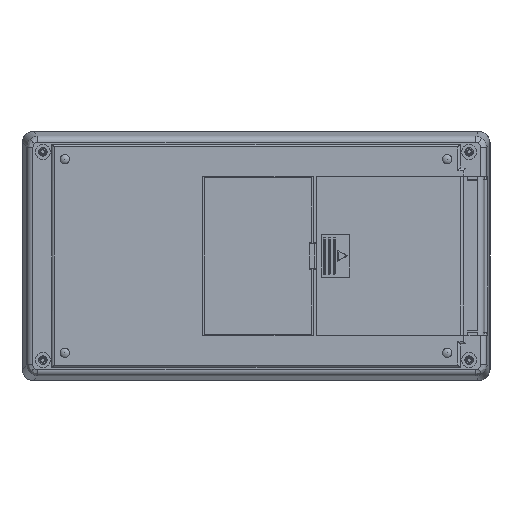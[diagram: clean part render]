
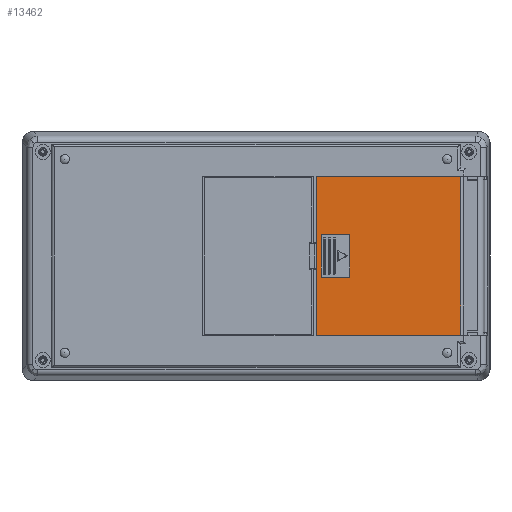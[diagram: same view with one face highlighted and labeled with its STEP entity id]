
A CAD part, front view. The second image highlights one B-rep face of the part: STEP entity #13462.
In plain terms, the highlighted planar face has unit normal (0, -1, 0).
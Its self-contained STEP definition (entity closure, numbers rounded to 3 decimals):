
#166 = DIRECTION ( 'NONE',  ( 1., 0., 0. ) ) ;
#334 = VERTEX_POINT ( 'NONE', #18364 ) ;
#813 = EDGE_LOOP ( 'NONE', ( #9544, #7165, #11048, #12207 ) ) ;
#1326 = ORIENTED_EDGE ( 'NONE', *, *, #6286, .F. ) ;
#1711 = VECTOR ( 'NONE', #18754, 1000. ) ;
#2180 = DIRECTION ( 'NONE',  ( -1., 0., 0. ) ) ;
#2261 = ORIENTED_EDGE ( 'NONE', *, *, #15351, .F. ) ;
#2271 = AXIS2_PLACEMENT_3D ( 'NONE', #16293, #5257, #19963 ) ;
#2656 = VERTEX_POINT ( 'NONE', #14378 ) ;
#2768 = VECTOR ( 'NONE', #6360, 1000. ) ;
#2890 = LINE ( 'NONE', #14790, #12079 ) ;
#4551 = CARTESIAN_POINT ( 'NONE',  ( 27.2, 0., 8.75 ) ) ;
#4572 = EDGE_LOOP ( 'NONE', ( #19893, #2261, #1326, #19851 ) ) ;
#4690 = LINE ( 'NONE', #20487, #13841 ) ;
#4868 = CARTESIAN_POINT ( 'NONE',  ( 38.7, 0., -8.75 ) ) ;
#4960 = VECTOR ( 'NONE', #19834, 1000. ) ;
#5257 = DIRECTION ( 'NONE',  ( 0., 1., 0. ) ) ;
#6286 = EDGE_CURVE ( 'NONE', #334, #2656, #4690, .T. ) ;
#6360 = DIRECTION ( 'NONE',  ( 0., 0., -1. ) ) ;
#6856 = EDGE_CURVE ( 'NONE', #334, #14362, #11503, .T. ) ;
#7159 = VECTOR ( 'NONE', #8724, 1000. ) ;
#7165 = ORIENTED_EDGE ( 'NONE', *, *, #21593, .F. ) ;
#7169 = EDGE_CURVE ( 'NONE', #21554, #20357, #18051, .T. ) ;
#7775 = CARTESIAN_POINT ( 'NONE',  ( 25.2, 0., 32.4 ) ) ;
#7827 = VERTEX_POINT ( 'NONE', #14552 ) ;
#8461 = LINE ( 'NONE', #13173, #23107 ) ;
#8582 = DIRECTION ( 'NONE',  ( 0., 0., -1. ) ) ;
#8724 = DIRECTION ( 'NONE',  ( 1., 0., 0. ) ) ;
#8726 = CARTESIAN_POINT ( 'NONE',  ( 27.2, 0., -8.75 ) ) ;
#8882 = CARTESIAN_POINT ( 'NONE',  ( 38.7, 0., 8.75 ) ) ;
#9482 = CARTESIAN_POINT ( 'NONE',  ( 38.7, 0., 8.75 ) ) ;
#9544 = ORIENTED_EDGE ( 'NONE', *, *, #13647, .F. ) ;
#9848 = LINE ( 'NONE', #8882, #4960 ) ;
#11048 = ORIENTED_EDGE ( 'NONE', *, *, #7169, .F. ) ;
#11235 = LINE ( 'NONE', #17707, #20962 ) ;
#11503 = LINE ( 'NONE', #7775, #1711 ) ;
#11919 = FACE_BOUND ( 'NONE', #813, .T. ) ;
#12079 = VECTOR ( 'NONE', #166, 1000. ) ;
#12207 = ORIENTED_EDGE ( 'NONE', *, *, #19442, .F. ) ;
#12526 = LINE ( 'NONE', #4551, #2768 ) ;
#13173 = CARTESIAN_POINT ( 'NONE',  ( 38.7, 0., 8.75 ) ) ;
#13462 = ADVANCED_FACE ( 'NONE', ( #11919, #21064 ), #18134, .F. ) ;
#13647 = EDGE_CURVE ( 'NONE', #18711, #7827, #8461, .T. ) ;
#13841 = VECTOR ( 'NONE', #22348, 1000. ) ;
#14362 = VERTEX_POINT ( 'NONE', #19297 ) ;
#14378 = CARTESIAN_POINT ( 'NONE',  ( 84.05, 0., 32.4 ) ) ;
#14552 = CARTESIAN_POINT ( 'NONE',  ( 27.2, 0., 8.75 ) ) ;
#14790 = CARTESIAN_POINT ( 'NONE',  ( 25.2, 0., -32.4 ) ) ;
#14938 = VERTEX_POINT ( 'NONE', #21724 ) ;
#15351 = EDGE_CURVE ( 'NONE', #2656, #14938, #11235, .T. ) ;
#16293 = CARTESIAN_POINT ( 'NONE',  ( 25.2, 0., 32.4 ) ) ;
#16598 = EDGE_CURVE ( 'NONE', #14362, #14938, #2890, .T. ) ;
#17707 = CARTESIAN_POINT ( 'NONE',  ( 84.05, 0., 32.4 ) ) ;
#17917 = CARTESIAN_POINT ( 'NONE',  ( 38.7, 0., -8.75 ) ) ;
#18051 = LINE ( 'NONE', #17917, #7159 ) ;
#18134 = PLANE ( 'NONE',  #2271 ) ;
#18364 = CARTESIAN_POINT ( 'NONE',  ( 25.2, 0., 32.4 ) ) ;
#18711 = VERTEX_POINT ( 'NONE', #9482 ) ;
#18754 = DIRECTION ( 'NONE',  ( 0., 0., -1. ) ) ;
#19297 = CARTESIAN_POINT ( 'NONE',  ( 25.2, 0., -32.4 ) ) ;
#19442 = EDGE_CURVE ( 'NONE', #7827, #21554, #12526, .T. ) ;
#19834 = DIRECTION ( 'NONE',  ( 0., 0., 1. ) ) ;
#19851 = ORIENTED_EDGE ( 'NONE', *, *, #6856, .T. ) ;
#19893 = ORIENTED_EDGE ( 'NONE', *, *, #16598, .T. ) ;
#19963 = DIRECTION ( 'NONE',  ( 0., 0., 1. ) ) ;
#20357 = VERTEX_POINT ( 'NONE', #4868 ) ;
#20487 = CARTESIAN_POINT ( 'NONE',  ( 25.2, 0., 32.4 ) ) ;
#20962 = VECTOR ( 'NONE', #8582, 1000. ) ;
#21064 = FACE_OUTER_BOUND ( 'NONE', #4572, .T. ) ;
#21554 = VERTEX_POINT ( 'NONE', #8726 ) ;
#21593 = EDGE_CURVE ( 'NONE', #20357, #18711, #9848, .T. ) ;
#21724 = CARTESIAN_POINT ( 'NONE',  ( 84.05, 0., -32.4 ) ) ;
#22348 = DIRECTION ( 'NONE',  ( 1., 0., 0. ) ) ;
#23107 = VECTOR ( 'NONE', #2180, 1000. ) ;
